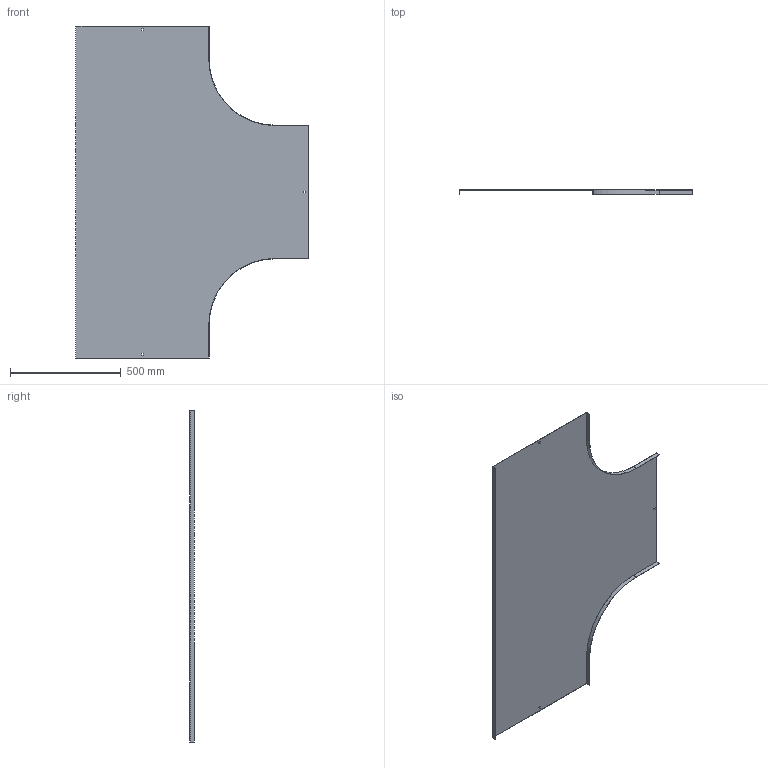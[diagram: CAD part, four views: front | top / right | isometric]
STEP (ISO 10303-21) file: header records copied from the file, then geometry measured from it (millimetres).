
FILE_DESCRIPTION (( 'STEP AP214' ), '1' );
FILE_NAME ('A2_15N3R600.step', '2025-02-21T12:06:42', ( '' ), ( '' ), 'SwSTEP 2.0', 'SolidWorks 2023', '' );
FILE_SCHEMA (( 'AUTOMOTIVE_DESIGN' ));
Length unit declared in the file: millimetre
Products named in the file (1): A2_15N3R600
Bounding box: 1051.5 x 20 x 1500 mm (x, y, z)
Volume: 1903882.9 mm3; surface area: 2546086.7 mm2
Topology: 1 solids, 1 shells, 34 faces, 96 edges, 64 vertices
Faces by surface type: plane 30, cylinder 4
Entity records: 1123 total; most frequent: CARTESIAN_POINT 195, ORIENTED_EDGE 192, DIRECTION 174, EDGE_CURVE 96, LINE 88, VECTOR 88, VERTEX_POINT 64, AXIS2_PLACEMENT_3D 43
